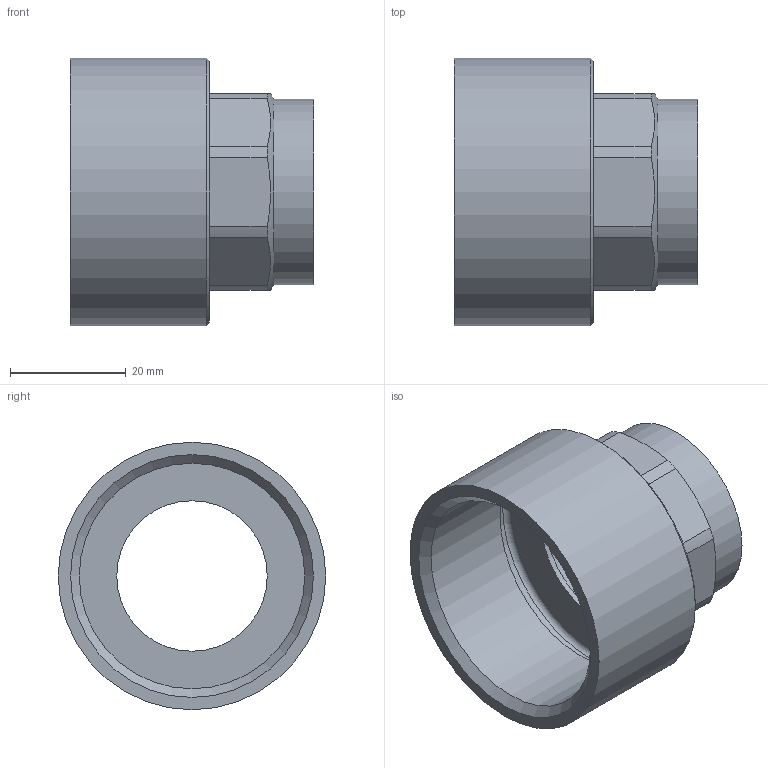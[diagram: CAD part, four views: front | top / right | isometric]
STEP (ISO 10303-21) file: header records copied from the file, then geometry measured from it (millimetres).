
FILE_DESCRIPTION(/* description */ (''),/* implementation_level */ '2;1');
FILE_NAME(/* name */ '\\lg50011\SANHA_LEGNICA\Engineering\Public\RYSUNKI\SANHA POLSKA\4270G\inventor\14270_28-114(2).stp',/* time_stamp */ '2022-05-04T07:02:12+02:00',/* author */ ('gomulka'),/* organization */ (''),/* preprocessor_version */ 'ST-DEVELOPER v19',/* originating_system */ 'Autodesk Inventor 2023',/* authorisation */ '');
FILE_SCHEMA (('AUTOMOTIVE_DESIGN { 1 0 10303 214 3 1 1 }'));
Length unit declared in the file: millimetre
Products named in the file (1): 14270_28-114(2)
Bounding box: 42 x 46.2 x 46.2 mm (x, y, z)
Volume: 16957.4 mm3; surface area: 12323.6 mm2
Topology: 1 solids, 1 shells, 32 faces, 84 edges, 57 vertices
Faces by surface type: cylinder 14, plane 13, cone 4, torus 1
Full cylindrical faces by diameter (mm): 26 x1, 28 x1, 32 x1, 38.952 x1, 43 x1, 46.2 x1
Entity records: 1037 total; most frequent: CARTESIAN_POINT 206, ORIENTED_EDGE 168, DIRECTION 168, EDGE_CURVE 84, AXIS2_PLACEMENT_3D 67, VERTEX_POINT 57, EDGE_LOOP 37, LINE 34
